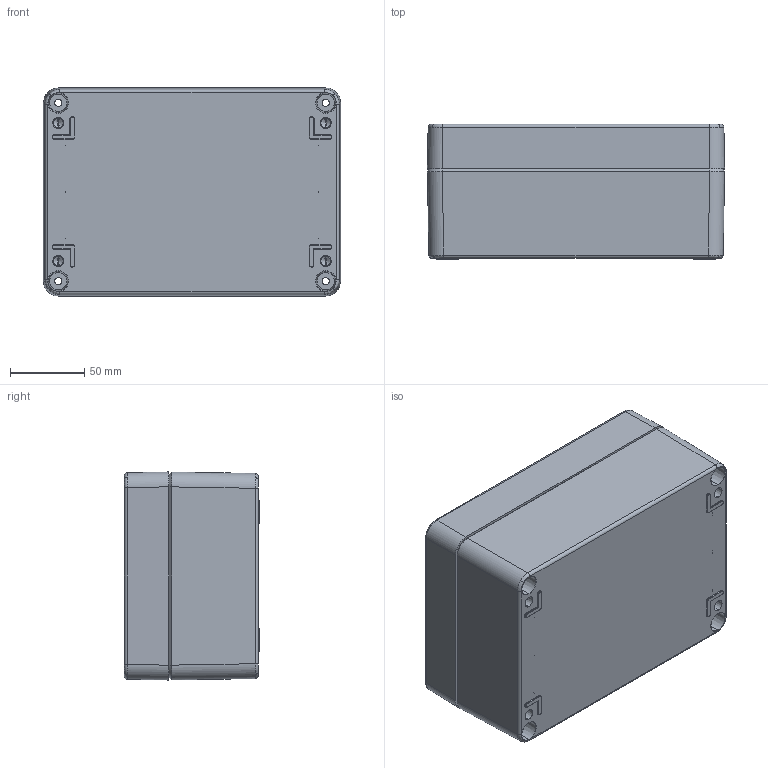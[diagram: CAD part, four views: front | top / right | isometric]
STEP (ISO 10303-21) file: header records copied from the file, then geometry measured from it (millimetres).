
FILE_DESCRIPTION (( 'STEP AP203' ), '1' );
FILE_NAME ('BB062.STEP', '2024-12-24T03:55:44', ( '' ), ( '' ), 'SwSTEP 2.0', 'SolidWorks 2019', '' );
FILE_SCHEMA (( 'CONFIG_CONTROL_DESIGN' ));
Length unit declared in the file: millimetre
Products named in the file (3): HOUSING_140X200X91; COVER_140X200X91; BB062
Assembly tree (2 placements, depth 2):
  BB062
    HOUSING_140X200X91
    COVER_140X200X91
Bounding box: 200 x 91 x 140 mm (x, y, z)
Volume: 586126.7 mm3; surface area: 241392.2 mm2
Topology: 18 solids, 18 shells, 871 faces, 1988 edges, 1163 vertices
Faces by surface type: cylinder 261, plane 208, bspline 181, cone 126, torus 95
Entity records: 33795 total; most frequent: CARTESIAN_POINT 14942, ORIENTED_EDGE 3936, DIRECTION 3785, EDGE_CURVE 1968, AXIS2_PLACEMENT_3D 1484, VERTEX_POINT 1163, EDGE_LOOP 945, ADVANCED_FACE 871
